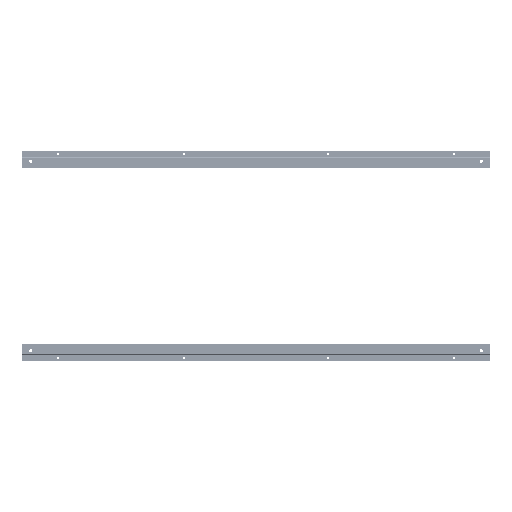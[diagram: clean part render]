
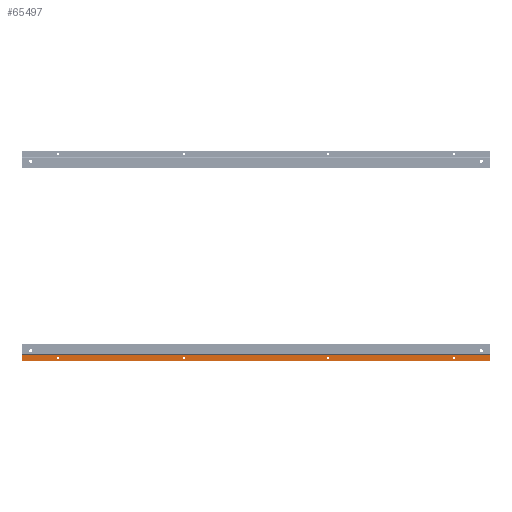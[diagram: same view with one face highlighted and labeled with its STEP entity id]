
A CAD part, left-side view. The second image highlights one B-rep face of the part: STEP entity #65497.
In plain terms, the highlighted planar face has unit normal (-1, 0, 0).
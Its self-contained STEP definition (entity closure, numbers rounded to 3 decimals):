
#315 = VERTEX_POINT('',#316);
#316 = CARTESIAN_POINT('',(-7.2,0.,-31.7));
#322 = EDGE_CURVE('',#315,#323,#325,.T.);
#323 = VERTEX_POINT('',#324);
#324 = CARTESIAN_POINT('',(-7.2,0.,-49.7));
#325 = LINE('',#326,#327);
#326 = CARTESIAN_POINT('',(-7.2,0.,-31.7));
#327 = VECTOR('',#328,1.);
#328 = DIRECTION('',(0.,0.,-1.));
#495 = VERTEX_POINT('',#496);
#496 = CARTESIAN_POINT('',(-7.2,1299.,-31.7));
#502 = EDGE_CURVE('',#503,#495,#505,.T.);
#503 = VERTEX_POINT('',#504);
#504 = CARTESIAN_POINT('',(-7.2,1299.,-49.7));
#505 = LINE('',#506,#507);
#506 = CARTESIAN_POINT('',(-7.2,1299.,-49.7));
#507 = VECTOR('',#508,1.);
#508 = DIRECTION('',(0.,0.,1.));
#65468 = EDGE_CURVE('',#323,#503,#65469,.T.);
#65469 = LINE('',#65470,#65471);
#65470 = CARTESIAN_POINT('',(-7.2,1299.,-49.7));
#65471 = VECTOR('',#65472,1.);
#65472 = DIRECTION('',(0.,1.,-0.));
#65497 = ADVANCED_FACE('',(#65498,#65509,#65520,#65531,#65542),#65553,
  .F.);
#65498 = FACE_BOUND('',#65499,.F.);
#65499 = EDGE_LOOP('',(#65500,#65501,#65507,#65508));
#65500 = ORIENTED_EDGE('',*,*,#502,.T.);
#65501 = ORIENTED_EDGE('',*,*,#65502,.F.);
#65502 = EDGE_CURVE('',#315,#495,#65503,.T.);
#65503 = LINE('',#65504,#65505);
#65504 = CARTESIAN_POINT('',(-7.2,1299.,-31.7));
#65505 = VECTOR('',#65506,1.);
#65506 = DIRECTION('',(0.,1.,-0.));
#65507 = ORIENTED_EDGE('',*,*,#322,.T.);
#65508 = ORIENTED_EDGE('',*,*,#65468,.T.);
#65509 = FACE_BOUND('',#65510,.F.);
#65510 = EDGE_LOOP('',(#65511));
#65511 = ORIENTED_EDGE('',*,*,#65512,.F.);
#65512 = EDGE_CURVE('',#65513,#65513,#65515,.T.);
#65513 = VERTEX_POINT('',#65514);
#65514 = CARTESIAN_POINT('',(-7.2,849.5,-36.3));
#65515 = CIRCLE('',#65516,3.5);
#65516 = AXIS2_PLACEMENT_3D('',#65517,#65518,#65519);
#65517 = CARTESIAN_POINT('',(-7.2,849.5,-39.8));
#65518 = DIRECTION('',(1.,0.,-0.));
#65519 = DIRECTION('',(0.,0.,1.));
#65520 = FACE_BOUND('',#65521,.F.);
#65521 = EDGE_LOOP('',(#65522));
#65522 = ORIENTED_EDGE('',*,*,#65523,.F.);
#65523 = EDGE_CURVE('',#65524,#65524,#65526,.T.);
#65524 = VERTEX_POINT('',#65525);
#65525 = CARTESIAN_POINT('',(-7.2,1199.5,-36.3));
#65526 = CIRCLE('',#65527,3.5);
#65527 = AXIS2_PLACEMENT_3D('',#65528,#65529,#65530);
#65528 = CARTESIAN_POINT('',(-7.2,1199.5,-39.8));
#65529 = DIRECTION('',(1.,0.,-0.));
#65530 = DIRECTION('',(0.,0.,1.));
#65531 = FACE_BOUND('',#65532,.F.);
#65532 = EDGE_LOOP('',(#65533));
#65533 = ORIENTED_EDGE('',*,*,#65534,.F.);
#65534 = EDGE_CURVE('',#65535,#65535,#65537,.T.);
#65535 = VERTEX_POINT('',#65536);
#65536 = CARTESIAN_POINT('',(-7.2,449.5,-36.3));
#65537 = CIRCLE('',#65538,3.5);
#65538 = AXIS2_PLACEMENT_3D('',#65539,#65540,#65541);
#65539 = CARTESIAN_POINT('',(-7.2,449.5,-39.8));
#65540 = DIRECTION('',(1.,0.,-0.));
#65541 = DIRECTION('',(0.,0.,1.));
#65542 = FACE_BOUND('',#65543,.F.);
#65543 = EDGE_LOOP('',(#65544));
#65544 = ORIENTED_EDGE('',*,*,#65545,.F.);
#65545 = EDGE_CURVE('',#65546,#65546,#65548,.T.);
#65546 = VERTEX_POINT('',#65547);
#65547 = CARTESIAN_POINT('',(-7.2,99.5,-36.3));
#65548 = CIRCLE('',#65549,3.5);
#65549 = AXIS2_PLACEMENT_3D('',#65550,#65551,#65552);
#65550 = CARTESIAN_POINT('',(-7.2,99.5,-39.8));
#65551 = DIRECTION('',(1.,0.,-0.));
#65552 = DIRECTION('',(0.,0.,1.));
#65553 = PLANE('',#65554);
#65554 = AXIS2_PLACEMENT_3D('',#65555,#65556,#65557);
#65555 = CARTESIAN_POINT('',(-7.2,1299.,-31.7));
#65556 = DIRECTION('',(1.,-0.,0.));
#65557 = DIRECTION('',(0.,0.,-1.));
